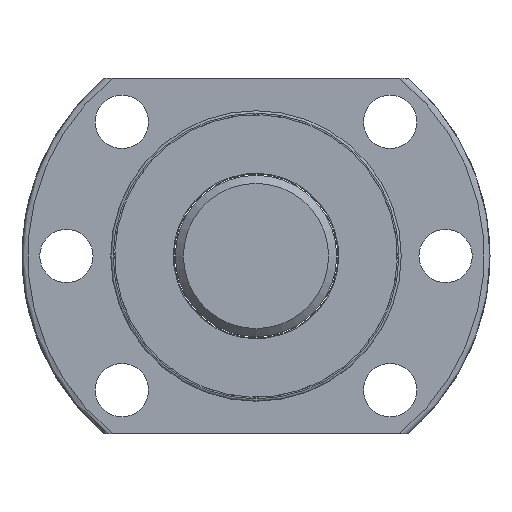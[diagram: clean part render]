
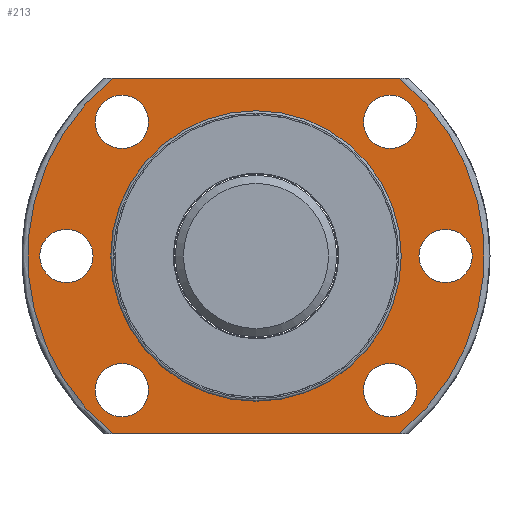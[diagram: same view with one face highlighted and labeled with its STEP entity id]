
A CAD part, left-side view. The second image highlights one B-rep face of the part: STEP entity #213.
In plain terms, the highlighted planar face has unit normal (-1, 0, 0).
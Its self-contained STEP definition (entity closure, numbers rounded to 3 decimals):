
#107=LINE('',#1289,#115);
#108=LINE('',#1293,#116);
#115=VECTOR('',#1009,1.);
#116=VECTOR('',#1012,1.);
#153=PLANE('',#840);
#176=FACE_OUTER_BOUND('',#394,.T.);
#213=ADVANCED_FACE('',(#298,#299,#300,#301,#176,#302,#303,#304),#153,.F.);
#298=FACE_BOUND('',#390,.T.);
#299=FACE_BOUND('',#391,.T.);
#300=FACE_BOUND('',#392,.T.);
#301=FACE_BOUND('',#393,.T.);
#302=FACE_BOUND('',#395,.T.);
#303=FACE_BOUND('',#396,.T.);
#304=FACE_BOUND('',#397,.T.);
#390=EDGE_LOOP('',(#506));
#391=EDGE_LOOP('',(#507));
#392=EDGE_LOOP('',(#508));
#393=EDGE_LOOP('',(#509));
#394=EDGE_LOOP('',(#510,#511,#512,#513));
#395=EDGE_LOOP('',(#514));
#396=EDGE_LOOP('',(#515));
#397=EDGE_LOOP('',(#516));
#506=ORIENTED_EDGE('',*,*,#688,.T.);
#507=ORIENTED_EDGE('',*,*,#689,.T.);
#508=ORIENTED_EDGE('',*,*,#690,.F.);
#509=ORIENTED_EDGE('',*,*,#691,.F.);
#510=ORIENTED_EDGE('',*,*,#673,.T.);
#511=ORIENTED_EDGE('',*,*,#692,.T.);
#512=ORIENTED_EDGE('',*,*,#693,.T.);
#513=ORIENTED_EDGE('',*,*,#694,.T.);
#514=ORIENTED_EDGE('',*,*,#695,.F.);
#515=ORIENTED_EDGE('',*,*,#696,.T.);
#516=ORIENTED_EDGE('',*,*,#697,.F.);
#609=VERTEX_POINT('',#1193);
#610=VERTEX_POINT('',#1195);
#622=VERTEX_POINT('',#1282);
#623=VERTEX_POINT('',#1284);
#624=VERTEX_POINT('',#1286);
#625=VERTEX_POINT('',#1288);
#626=VERTEX_POINT('',#1290);
#627=VERTEX_POINT('',#1292);
#628=VERTEX_POINT('',#1295);
#629=VERTEX_POINT('',#1297);
#630=VERTEX_POINT('',#1299);
#673=EDGE_CURVE('',#610,#609,#741,.T.);
#688=EDGE_CURVE('',#622,#622,#751,.T.);
#689=EDGE_CURVE('',#623,#623,#752,.T.);
#690=EDGE_CURVE('',#624,#624,#753,.T.);
#691=EDGE_CURVE('',#625,#625,#754,.T.);
#692=EDGE_CURVE('',#609,#626,#107,.T.);
#693=EDGE_CURVE('',#626,#627,#755,.T.);
#694=EDGE_CURVE('',#627,#610,#108,.T.);
#695=EDGE_CURVE('',#628,#628,#756,.T.);
#696=EDGE_CURVE('',#629,#629,#757,.T.);
#697=EDGE_CURVE('',#630,#630,#758,.T.);
#741=CIRCLE('',#819,28.3);
#751=CIRCLE('',#832,3.3);
#752=CIRCLE('',#833,3.3);
#753=CIRCLE('',#834,3.3);
#754=CIRCLE('',#835,18.);
#755=CIRCLE('',#836,28.3);
#756=CIRCLE('',#837,3.3);
#757=CIRCLE('',#838,3.3);
#758=CIRCLE('',#839,3.3);
#819=AXIS2_PLACEMENT_3D('',#1194,#973,#974);
#832=AXIS2_PLACEMENT_3D('',#1281,#1001,#1002);
#833=AXIS2_PLACEMENT_3D('',#1283,#1003,#1004);
#834=AXIS2_PLACEMENT_3D('',#1285,#1005,#1006);
#835=AXIS2_PLACEMENT_3D('',#1287,#1007,#1008);
#836=AXIS2_PLACEMENT_3D('',#1291,#1010,#1011);
#837=AXIS2_PLACEMENT_3D('',#1294,#1013,#1014);
#838=AXIS2_PLACEMENT_3D('',#1296,#1015,#1016);
#839=AXIS2_PLACEMENT_3D('',#1298,#1017,#1018);
#840=AXIS2_PLACEMENT_3D('',#1300,#1019,#1020);
#973=DIRECTION('',(-1.,0.,0.));
#974=DIRECTION('',(0.,0.,-1.));
#1001=DIRECTION('',(1.,0.,0.));
#1002=DIRECTION('',(0.,0.,-1.));
#1003=DIRECTION('',(1.,0.,0.));
#1004=DIRECTION('',(0.,0.,-1.));
#1005=DIRECTION('',(-1.,0.,0.));
#1006=DIRECTION('',(0.,0.,-1.));
#1007=DIRECTION('',(-1.,0.,0.));
#1008=DIRECTION('',(0.,0.,1.));
#1009=DIRECTION('',(0.,1.,0.));
#1010=DIRECTION('',(-1.,0.,0.));
#1011=DIRECTION('',(0.,0.,-1.));
#1012=DIRECTION('',(0.,-1.,0.));
#1013=DIRECTION('',(-1.,0.,0.));
#1014=DIRECTION('',(0.,0.,-1.));
#1015=DIRECTION('',(1.,0.,0.));
#1016=DIRECTION('',(0.,0.,-1.));
#1017=DIRECTION('',(-1.,0.,0.));
#1018=DIRECTION('',(0.,0.,-1.));
#1019=DIRECTION('',(1.,0.,0.));
#1020=DIRECTION('',(0.,0.,-1.));
#1193=CARTESIAN_POINT('',(48.,-17.801,22.));
#1194=CARTESIAN_POINT('',(48.,0.,0.));
#1195=CARTESIAN_POINT('',(48.,-17.801,-22.));
#1281=CARTESIAN_POINT('',(48.,23.5,0.));
#1282=CARTESIAN_POINT('',(48.,23.5,-3.3));
#1283=CARTESIAN_POINT('',(48.,16.617,16.617));
#1284=CARTESIAN_POINT('',(48.,16.617,13.317));
#1285=CARTESIAN_POINT('',(48.,-23.5,0.));
#1286=CARTESIAN_POINT('',(48.,-23.5,-3.3));
#1287=CARTESIAN_POINT('',(48.,0.,0.));
#1288=CARTESIAN_POINT('',(48.,0.,18.));
#1289=CARTESIAN_POINT('',(48.,-37.836,22.));
#1290=CARTESIAN_POINT('',(48.,17.801,22.));
#1291=CARTESIAN_POINT('',(48.,0.,0.));
#1292=CARTESIAN_POINT('',(48.,17.801,-22.));
#1293=CARTESIAN_POINT('',(48.,-37.836,-22.));
#1294=CARTESIAN_POINT('',(48.,-16.617,16.617));
#1295=CARTESIAN_POINT('',(48.,-16.617,13.317));
#1296=CARTESIAN_POINT('',(48.,-16.617,-16.617));
#1297=CARTESIAN_POINT('',(48.,-16.617,-19.917));
#1298=CARTESIAN_POINT('',(48.,16.617,-16.617));
#1299=CARTESIAN_POINT('',(48.,16.617,-19.917));
#1300=CARTESIAN_POINT('',(48.,-37.836,0.));
